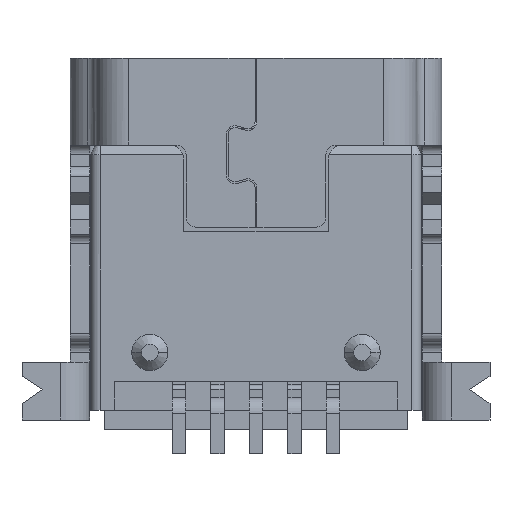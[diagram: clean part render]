
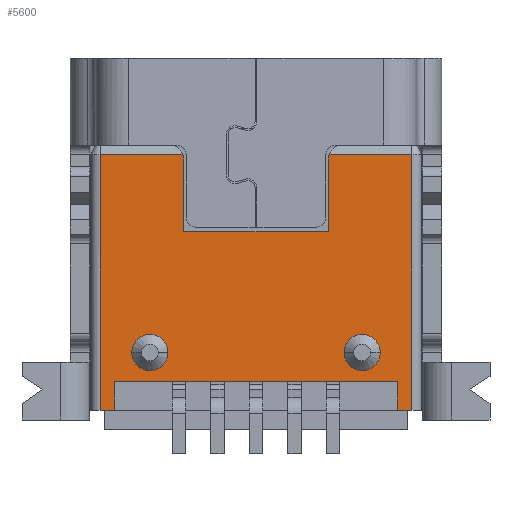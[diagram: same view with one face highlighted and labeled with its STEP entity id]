
A CAD part, front view. The second image highlights one B-rep face of the part: STEP entity #5600.
In plain terms, the highlighted planar face has unit normal (0, -1, 0).
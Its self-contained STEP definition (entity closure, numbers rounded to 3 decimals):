
#2375=CARTESIAN_POINT('Vertex',(2.93,0.,1.7)) ;
#2378=CARTESIAN_POINT('Line Origine',(0.,0.,1.7)) ;
#2382=CARTESIAN_POINT('Vertex',(-2.93,0.,1.7)) ;
#3485=CARTESIAN_POINT('Line Origine',(-2.93,0.,1.4)) ;
#3489=CARTESIAN_POINT('Vertex',(-2.93,0.,1.1)) ;
#3511=CARTESIAN_POINT('Line Origine',(-3.23,0.,0.)) ;
#3515=CARTESIAN_POINT('Vertex',(-3.23,0.,6.4)) ;
#3517=CARTESIAN_POINT('Vertex',(-3.23,0.,1.1)) ;
#3566=CARTESIAN_POINT('Vertex',(1.517,0.,6.4)) ;
#3571=CARTESIAN_POINT('Line Origine',(2.374,0.,6.4)) ;
#3575=CARTESIAN_POINT('Vertex',(3.23,0.,6.4)) ;
#3609=CARTESIAN_POINT('Line Origine',(-2.374,0.,6.4)) ;
#3613=CARTESIAN_POINT('Vertex',(-1.517,0.,6.4)) ;
#3663=CARTESIAN_POINT('Axis2P3D Location',(-1.8,0.,6.3)) ;
#3667=CARTESIAN_POINT('Vertex',(-1.5,0.,6.3)) ;
#3688=CARTESIAN_POINT('Line Origine',(-1.5,0.,5.55)) ;
#3692=CARTESIAN_POINT('Vertex',(-1.5,0.,4.8)) ;
#3725=CARTESIAN_POINT('Vertex',(1.5,0.,4.8)) ;
#3733=CARTESIAN_POINT('Line Origine',(0.,0.,4.8)) ;
#3757=CARTESIAN_POINT('Line Origine',(1.5,0.,5.55)) ;
#3761=CARTESIAN_POINT('Vertex',(1.5,0.,6.3)) ;
#3781=CARTESIAN_POINT('Axis2P3D Location',(1.8,0.,6.3)) ;
#4520=CARTESIAN_POINT('Line Origine',(3.23,0.,0.)) ;
#4524=CARTESIAN_POINT('Vertex',(3.23,0.,1.1)) ;
#4544=CARTESIAN_POINT('Line Origine',(-3.08,0.,1.1)) ;
#4582=CARTESIAN_POINT('Line Origine',(3.08,0.,1.1)) ;
#4586=CARTESIAN_POINT('Vertex',(2.93,0.,1.1)) ;
#5350=CARTESIAN_POINT('Vertex',(1.825,0.,2.3)) ;
#5355=CARTESIAN_POINT('Axis2P3D Location',(2.2,0.,2.3)) ;
#5359=CARTESIAN_POINT('Vertex',(2.575,0.,2.3)) ;
#5444=CARTESIAN_POINT('Axis2P3D Location',(2.2,0.,2.3)) ;
#5465=CARTESIAN_POINT('Vertex',(-1.825,0.,2.3)) ;
#5470=CARTESIAN_POINT('Axis2P3D Location',(-2.2,0.,2.3)) ;
#5474=CARTESIAN_POINT('Vertex',(-2.575,0.,2.3)) ;
#5554=CARTESIAN_POINT('Axis2P3D Location',(-2.2,0.,2.3)) ;
#5566=CARTESIAN_POINT('Axis2P3D Location',(-3.23,0.,0.)) ;
#5571=CARTESIAN_POINT('Line Origine',(2.93,0.,1.4)) ;
#2379=DIRECTION('Vector Direction',(1.,0.,0.)) ;
#3486=DIRECTION('Vector Direction',(0.,0.,-1.)) ;
#3512=DIRECTION('Vector Direction',(0.,0.,1.)) ;
#3572=DIRECTION('Vector Direction',(-1.,0.,0.)) ;
#3610=DIRECTION('Vector Direction',(-1.,0.,0.)) ;
#3664=DIRECTION('Axis2P3D Direction',(0.,1.,0.)) ;
#3689=DIRECTION('Vector Direction',(0.,0.,1.)) ;
#3734=DIRECTION('Vector Direction',(-1.,0.,0.)) ;
#3758=DIRECTION('Vector Direction',(0.,0.,1.)) ;
#3782=DIRECTION('Axis2P3D Direction',(0.,-1.,0.)) ;
#4521=DIRECTION('Vector Direction',(0.,0.,1.)) ;
#4545=DIRECTION('Vector Direction',(1.,0.,0.)) ;
#4583=DIRECTION('Vector Direction',(1.,0.,0.)) ;
#5356=DIRECTION('Axis2P3D Direction',(0.,-1.,0.)) ;
#5445=DIRECTION('Axis2P3D Direction',(0.,-1.,0.)) ;
#5471=DIRECTION('Axis2P3D Direction',(0.,-1.,0.)) ;
#5555=DIRECTION('Axis2P3D Direction',(0.,-1.,0.)) ;
#5567=DIRECTION('Axis2P3D Direction',(0.,-1.,0.)) ;
#5568=DIRECTION('Axis2P3D XDirection',(1.,0.,0.)) ;
#5572=DIRECTION('Vector Direction',(0.,0.,1.)) ;
#3665=AXIS2_PLACEMENT_3D('Circle Axis2P3D',#3663,#3664,$) ;
#3783=AXIS2_PLACEMENT_3D('Circle Axis2P3D',#3781,#3782,$) ;
#5357=AXIS2_PLACEMENT_3D('Circle Axis2P3D',#5355,#5356,$) ;
#5446=AXIS2_PLACEMENT_3D('Circle Axis2P3D',#5444,#5445,$) ;
#5472=AXIS2_PLACEMENT_3D('Circle Axis2P3D',#5470,#5471,$) ;
#5556=AXIS2_PLACEMENT_3D('Circle Axis2P3D',#5554,#5555,$) ;
#5569=AXIS2_PLACEMENT_3D('Plane Axis2P3D',#5566,#5567,#5568) ;
#5577=ORIENTED_EDGE('',*,*,#2384,.T.) ;
#5578=ORIENTED_EDGE('',*,*,#5575,.F.) ;
#5579=ORIENTED_EDGE('',*,*,#4588,.T.) ;
#5580=ORIENTED_EDGE('',*,*,#4526,.T.) ;
#5581=ORIENTED_EDGE('',*,*,#3577,.T.) ;
#5582=ORIENTED_EDGE('',*,*,#3785,.F.) ;
#5583=ORIENTED_EDGE('',*,*,#3763,.F.) ;
#5584=ORIENTED_EDGE('',*,*,#3737,.T.) ;
#5585=ORIENTED_EDGE('',*,*,#3694,.T.) ;
#5586=ORIENTED_EDGE('',*,*,#3669,.F.) ;
#5587=ORIENTED_EDGE('',*,*,#3615,.T.) ;
#5588=ORIENTED_EDGE('',*,*,#3519,.T.) ;
#5589=ORIENTED_EDGE('',*,*,#4548,.T.) ;
#5590=ORIENTED_EDGE('',*,*,#3491,.F.) ;
#5593=ORIENTED_EDGE('',*,*,#5361,.F.) ;
#5594=ORIENTED_EDGE('',*,*,#5448,.F.) ;
#5597=ORIENTED_EDGE('',*,*,#5476,.F.) ;
#5598=ORIENTED_EDGE('',*,*,#5558,.F.) ;
#5595=FACE_BOUND('',#5592,.T.) ;
#5599=FACE_BOUND('',#5596,.T.) ;
#2380=VECTOR('Line Direction',#2379,1.) ;
#3487=VECTOR('Line Direction',#3486,1.) ;
#3513=VECTOR('Line Direction',#3512,1.) ;
#3573=VECTOR('Line Direction',#3572,1.) ;
#3611=VECTOR('Line Direction',#3610,1.) ;
#3690=VECTOR('Line Direction',#3689,1.) ;
#3735=VECTOR('Line Direction',#3734,1.) ;
#3759=VECTOR('Line Direction',#3758,1.) ;
#4522=VECTOR('Line Direction',#4521,1.) ;
#4546=VECTOR('Line Direction',#4545,1.) ;
#4584=VECTOR('Line Direction',#4583,1.) ;
#5573=VECTOR('Line Direction',#5572,1.) ;
#5600=ADVANCED_FACE('',(#5591,#5595,#5599),#5570,.T.) ;
#3666=CIRCLE('generated circle',#3665,0.3) ;
#3784=CIRCLE('generated circle',#3783,0.3) ;
#5358=CIRCLE('generated circle',#5357,0.375) ;
#5447=CIRCLE('generated circle',#5446,0.375) ;
#5473=CIRCLE('generated circle',#5472,0.375) ;
#5557=CIRCLE('generated circle',#5556,0.375) ;
#2384=EDGE_CURVE('',#2383,#2376,#2381,.T.) ;
#3491=EDGE_CURVE('',#2383,#3490,#3488,.T.) ;
#3519=EDGE_CURVE('',#3516,#3518,#3514,.F.) ;
#3577=EDGE_CURVE('',#3576,#3567,#3574,.T.) ;
#3615=EDGE_CURVE('',#3614,#3516,#3612,.T.) ;
#3669=EDGE_CURVE('',#3614,#3668,#3666,.T.) ;
#3694=EDGE_CURVE('',#3693,#3668,#3691,.T.) ;
#3737=EDGE_CURVE('',#3726,#3693,#3736,.T.) ;
#3763=EDGE_CURVE('',#3726,#3762,#3760,.T.) ;
#3785=EDGE_CURVE('',#3762,#3567,#3784,.F.) ;
#4526=EDGE_CURVE('',#4525,#3576,#4523,.T.) ;
#4548=EDGE_CURVE('',#3518,#3490,#4547,.T.) ;
#4588=EDGE_CURVE('',#4587,#4525,#4585,.T.) ;
#5361=EDGE_CURVE('',#5351,#5360,#5358,.T.) ;
#5448=EDGE_CURVE('',#5360,#5351,#5447,.T.) ;
#5476=EDGE_CURVE('',#5466,#5475,#5473,.T.) ;
#5558=EDGE_CURVE('',#5475,#5466,#5557,.T.) ;
#5575=EDGE_CURVE('',#4587,#2376,#5574,.T.) ;
#5576=EDGE_LOOP('',(#5577,#5578,#5579,#5580,#5581,#5582,#5583,#5584,#5585,#5586,#5587,#5588,#5589,#5590)) ;
#5592=EDGE_LOOP('',(#5593,#5594)) ;
#5596=EDGE_LOOP('',(#5597,#5598)) ;
#5591=FACE_OUTER_BOUND('',#5576,.T.) ;
#2381=LINE('Line',#2378,#2380) ;
#3488=LINE('Line',#3485,#3487) ;
#3514=LINE('Line',#3511,#3513) ;
#3574=LINE('Line',#3571,#3573) ;
#3612=LINE('Line',#3609,#3611) ;
#3691=LINE('Line',#3688,#3690) ;
#3736=LINE('Line',#3733,#3735) ;
#3760=LINE('Line',#3757,#3759) ;
#4523=LINE('Line',#4520,#4522) ;
#4547=LINE('Line',#4544,#4546) ;
#4585=LINE('Line',#4582,#4584) ;
#5574=LINE('Line',#5571,#5573) ;
#5570=PLANE('Plane',#5569) ;
#2376=VERTEX_POINT('',#2375) ;
#2383=VERTEX_POINT('',#2382) ;
#3490=VERTEX_POINT('',#3489) ;
#3516=VERTEX_POINT('',#3515) ;
#3518=VERTEX_POINT('',#3517) ;
#3567=VERTEX_POINT('',#3566) ;
#3576=VERTEX_POINT('',#3575) ;
#3614=VERTEX_POINT('',#3613) ;
#3668=VERTEX_POINT('',#3667) ;
#3693=VERTEX_POINT('',#3692) ;
#3726=VERTEX_POINT('',#3725) ;
#3762=VERTEX_POINT('',#3761) ;
#4525=VERTEX_POINT('',#4524) ;
#4587=VERTEX_POINT('',#4586) ;
#5351=VERTEX_POINT('',#5350) ;
#5360=VERTEX_POINT('',#5359) ;
#5466=VERTEX_POINT('',#5465) ;
#5475=VERTEX_POINT('',#5474) ;
